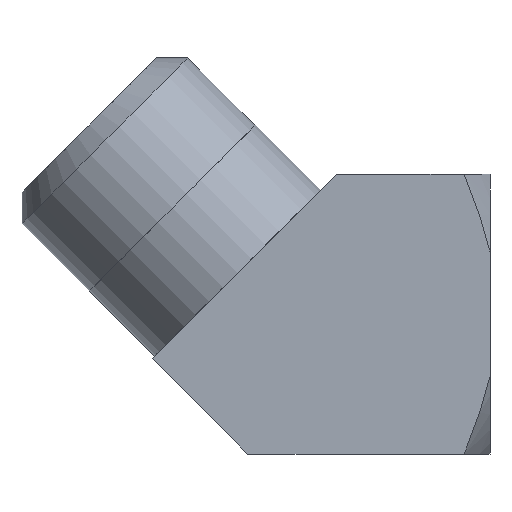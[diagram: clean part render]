
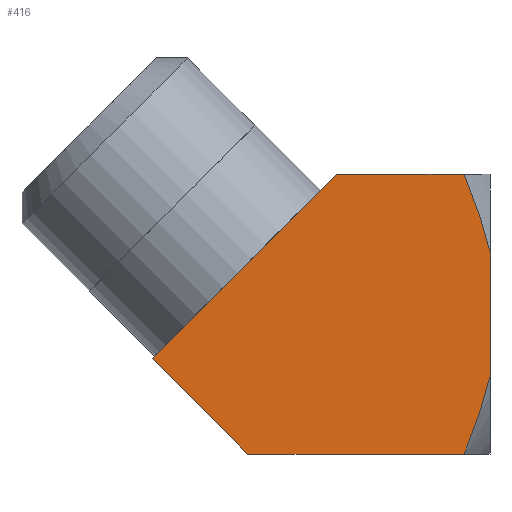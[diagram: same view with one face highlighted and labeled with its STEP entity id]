
A CAD part, front view. The second image highlights one B-rep face of the part: STEP entity #416.
In plain terms, the highlighted planar face has unit normal (0, -1, 0).
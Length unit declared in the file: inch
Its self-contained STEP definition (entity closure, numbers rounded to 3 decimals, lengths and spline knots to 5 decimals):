
#19=(
BOUNDED_CURVE()
B_SPLINE_CURVE(2,(#765,#766,#767),.UNSPECIFIED.,.F.,.F.)
B_SPLINE_CURVE_WITH_KNOTS((3,3),(0.,0.74442),.UNSPECIFIED.)
CURVE()
GEOMETRIC_REPRESENTATION_ITEM()
RATIONAL_B_SPLINE_CURVE((1.,1.025,1.))
REPRESENTATION_ITEM('')
);
#21=(
BOUNDED_CURVE()
B_SPLINE_CURVE(2,(#773,#774,#775),.UNSPECIFIED.,.F.,.F.)
B_SPLINE_CURVE_WITH_KNOTS((3,3),(0.,0.74442),.UNSPECIFIED.)
CURVE()
GEOMETRIC_REPRESENTATION_ITEM()
RATIONAL_B_SPLINE_CURVE((1.,1.025,1.))
REPRESENTATION_ITEM('')
);
#40=PLANE('',#477);
#68=FACE_OUTER_BOUND('',#96,.T.);
#96=EDGE_LOOP('',(#368,#369,#370,#371,#372,#373,#374));
#105=LINE('',#626,#128);
#118=LINE('',#756,#141);
#119=LINE('',#779,#142);
#121=LINE('',#786,#144);
#122=LINE('',#787,#145);
#128=VECTOR('',#507,0.3937);
#141=VECTOR('',#576,0.3937);
#142=VECTOR('',#587,0.3937);
#144=VECTOR('',#591,0.3937);
#145=VECTOR('',#592,0.3937);
#179=VERTEX_POINT('',#623);
#180=VERTEX_POINT('',#625);
#205=VERTEX_POINT('',#753);
#206=VERTEX_POINT('',#755);
#207=VERTEX_POINT('',#769);
#208=VERTEX_POINT('',#778);
#209=VERTEX_POINT('',#785);
#221=EDGE_CURVE('',#179,#180,#105,.T.);
#257=EDGE_CURVE('',#206,#205,#118,.T.);
#260=EDGE_CURVE('',#206,#179,#19,.T.);
#262=EDGE_CURVE('',#180,#207,#21,.T.);
#263=EDGE_CURVE('',#207,#208,#119,.T.);
#266=EDGE_CURVE('',#209,#205,#121,.T.);
#267=EDGE_CURVE('',#208,#209,#122,.T.);
#368=ORIENTED_EDGE('',*,*,#266,.F.);
#369=ORIENTED_EDGE('',*,*,#267,.F.);
#370=ORIENTED_EDGE('',*,*,#263,.F.);
#371=ORIENTED_EDGE('',*,*,#262,.F.);
#372=ORIENTED_EDGE('',*,*,#221,.F.);
#373=ORIENTED_EDGE('',*,*,#260,.F.);
#374=ORIENTED_EDGE('',*,*,#257,.T.);
#416=ADVANCED_FACE('',(#68),#40,.F.);
#477=AXIS2_PLACEMENT_3D('',#784,#589,#590);
#507=DIRECTION('',(0.,0.,-1.));
#576=DIRECTION('',(-1.,0.,0.));
#587=DIRECTION('',(-1.,0.,0.));
#589=DIRECTION('center_axis',(0.,1.,0.));
#590=DIRECTION('ref_axis',(1.,0.,0.));
#591=DIRECTION('',(0.707,0.,0.707));
#592=DIRECTION('',(-0.707,0.,0.707));
#623=CARTESIAN_POINT('',(0.757,0.,0.22209));
#625=CARTESIAN_POINT('',(0.757,0.,-0.22209));
#626=CARTESIAN_POINT('',(0.757,0.,0.25));
#753=CARTESIAN_POINT('',(0.20863,0.,0.5));
#755=CARTESIAN_POINT('',(0.66462,0.,0.5));
#756=CARTESIAN_POINT('',(0.637,0.,0.5));
#765=CARTESIAN_POINT('Ctrl Pts',(0.66462,0.,
0.5));
#766=CARTESIAN_POINT('Ctrl Pts',(0.72859,0.,
0.34332));
#767=CARTESIAN_POINT('Ctrl Pts',(0.757,0.,0.22209));
#769=CARTESIAN_POINT('',(0.66462,0.,-0.5));
#773=CARTESIAN_POINT('Ctrl Pts',(0.757,0.,-0.22209));
#774=CARTESIAN_POINT('Ctrl Pts',(0.72859,0.,
-0.34332));
#775=CARTESIAN_POINT('Ctrl Pts',(0.66462,0.,
-0.5));
#778=CARTESIAN_POINT('',(-0.10811,0.,-0.5));
#779=CARTESIAN_POINT('',(0.637,0.,-0.5));
#784=CARTESIAN_POINT('Origin',(-0.168,0.,0.2365));
#785=CARTESIAN_POINT('',(-0.44974,0.,-0.15837));
#786=CARTESIAN_POINT('',(-0.44974,0.,-0.15837));
#787=CARTESIAN_POINT('',(-0.10811,0.,-0.5));
